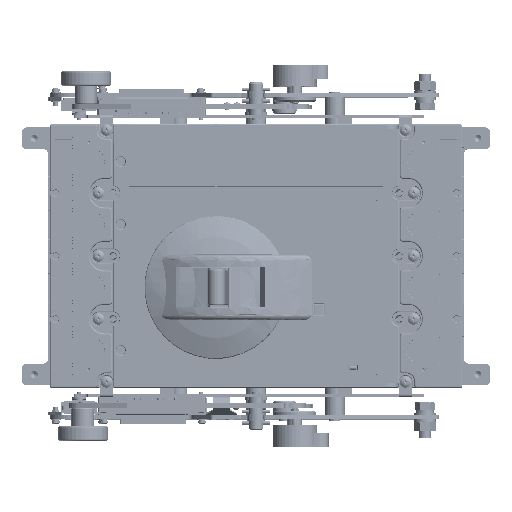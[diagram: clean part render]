
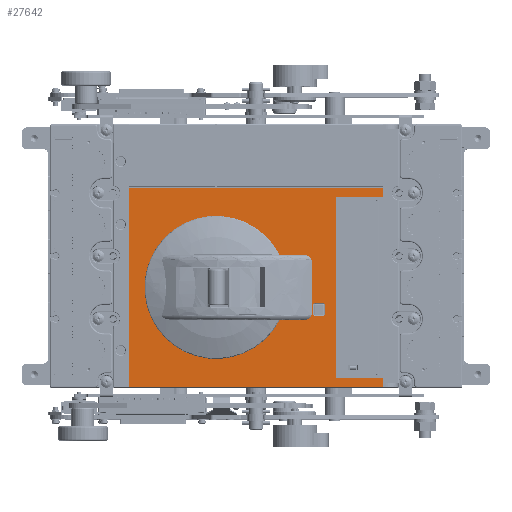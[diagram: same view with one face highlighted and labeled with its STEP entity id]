
A CAD part, top view. The second image highlights one B-rep face of the part: STEP entity #27642.
In plain terms, the highlighted planar face has unit normal (0, 0, 1).
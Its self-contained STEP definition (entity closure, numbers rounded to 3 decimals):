
#27642=ADVANCED_FACE('',(#66277,#66278,#66279),#44047,.T.);
#44047=PLANE('',#334692);
#55210=CIRCLE('',#333734,50.);
#55211=CIRCLE('',#333736,1.);
#55212=CIRCLE('',#333741,1.);
#55602=CIRCLE('',#334688,1.);
#55603=CIRCLE('',#334689,1.);
#55604=CIRCLE('',#334690,1.);
#55605=CIRCLE('',#334691,1.);
#66277=FACE_BOUND('',#75790,.T.);
#66278=FACE_BOUND('',#75791,.T.);
#66279=FACE_BOUND('',#75792,.T.);
#75790=EDGE_LOOP('',(#177936,#177937,#177938,#177939,#177940,#177941,#177942,
#177943));
#75791=EDGE_LOOP('',(#177944,#177945,#177946,#177947,#177948,#177949,#177950,
#177951,#177952,#177953));
#75792=EDGE_LOOP('',(#177954,#177955,#177956,#177957,#177958,#177959));
#100231=LINE('',#481903,#131868);
#100233=LINE('',#481927,#131870);
#100237=LINE('',#481946,#131874);
#100241=LINE('',#481961,#131878);
#100244=LINE('',#481965,#131881);
#100271=LINE('',#482181,#131908);
#100281=LINE('',#482202,#131918);
#100299=LINE('',#482238,#131936);
#100304=LINE('',#482246,#131941);
#100681=LINE('',#483541,#132322);
#101015=LINE('',#484601,#132656);
#101310=LINE('',#485643,#132951);
#101311=LINE('',#485648,#132952);
#101312=LINE('',#485652,#132953);
#101313=LINE('',#485656,#132954);
#131868=VECTOR('',#377889,1.);
#131870=VECTOR('',#377897,1.);
#131874=VECTOR('',#377913,1.);
#131878=VECTOR('',#377927,1.);
#131881=VECTOR('',#377932,1.);
#131908=VECTOR('',#378067,1.);
#131918=VECTOR('',#378083,1.);
#131936=VECTOR('',#378119,1.);
#131941=VECTOR('',#378126,1.);
#132322=VECTOR('',#379195,1.);
#132656=VECTOR('',#380123,1.);
#132951=VECTOR('',#380888,1.);
#132952=VECTOR('',#380891,1.);
#132953=VECTOR('',#380894,1.);
#132954=VECTOR('',#380897,1.);
#177936=ORIENTED_EDGE('',*,*,#291562,.T.);
#177937=ORIENTED_EDGE('',*,*,#291563,.T.);
#177938=ORIENTED_EDGE('',*,*,#291564,.T.);
#177939=ORIENTED_EDGE('',*,*,#291565,.T.);
#177940=ORIENTED_EDGE('',*,*,#291566,.T.);
#177941=ORIENTED_EDGE('',*,*,#291567,.T.);
#177942=ORIENTED_EDGE('',*,*,#291568,.T.);
#177943=ORIENTED_EDGE('',*,*,#291569,.T.);
#177944=ORIENTED_EDGE('',*,*,#290036,.T.);
#177945=ORIENTED_EDGE('',*,*,#290033,.T.);
#177946=ORIENTED_EDGE('',*,*,#291142,.T.);
#177947=ORIENTED_EDGE('',*,*,#290099,.T.);
#177948=ORIENTED_EDGE('',*,*,#290109,.T.);
#177949=ORIENTED_EDGE('',*,*,#290030,.T.);
#177950=ORIENTED_EDGE('',*,*,#290026,.T.);
#177951=ORIENTED_EDGE('',*,*,#290022,.T.);
#177952=ORIENTED_EDGE('',*,*,#290129,.T.);
#177953=ORIENTED_EDGE('',*,*,#290134,.T.);
#177954=ORIENTED_EDGE('',*,*,#290021,.T.);
#177955=ORIENTED_EDGE('',*,*,#290018,.F.);
#177956=ORIENTED_EDGE('',*,*,#290574,.T.);
#177957=ORIENTED_EDGE('',*,*,#290651,.T.);
#177958=ORIENTED_EDGE('',*,*,#290566,.T.);
#177959=ORIENTED_EDGE('',*,*,#290011,.T.);
#255971=VERTEX_POINT('',#479981);
#255995=VERTEX_POINT('',#480124);
#256378=VERTEX_POINT('',#481904);
#256379=VERTEX_POINT('',#481905);
#256382=VERTEX_POINT('',#481926);
#256383=VERTEX_POINT('',#481928);
#256384=VERTEX_POINT('',#481938);
#256385=VERTEX_POINT('',#481939);
#256388=VERTEX_POINT('',#481947);
#256391=VERTEX_POINT('',#481955);
#256393=VERTEX_POINT('',#481960);
#256431=VERTEX_POINT('',#482173);
#256433=VERTEX_POINT('',#482179);
#256451=VERTEX_POINT('',#482237);
#256701=VERTEX_POINT('',#483205);
#256705=VERTEX_POINT('',#483264);
#257327=VERTEX_POINT('',#485644);
#257328=VERTEX_POINT('',#485645);
#257329=VERTEX_POINT('',#485647);
#257330=VERTEX_POINT('',#485649);
#257331=VERTEX_POINT('',#485651);
#257332=VERTEX_POINT('',#485653);
#257333=VERTEX_POINT('',#485655);
#257334=VERTEX_POINT('',#485657);
#290011=EDGE_CURVE('',#256378,#256379,#100231,.T.);
#290018=EDGE_CURVE('',#256382,#256383,#100233,.T.);
#290021=EDGE_CURVE('',#256379,#256383,#55210,.T.);
#290022=EDGE_CURVE('',#256384,#256385,#55211,.T.);
#290026=EDGE_CURVE('',#256388,#256384,#100237,.T.);
#290030=EDGE_CURVE('',#256391,#256388,#55212,.T.);
#290033=EDGE_CURVE('',#255971,#256393,#100241,.T.);
#290036=EDGE_CURVE('',#255995,#255971,#100244,.T.);
#290099=EDGE_CURVE('',#256431,#256433,#100271,.T.);
#290109=EDGE_CURVE('',#256433,#256391,#100281,.T.);
#290129=EDGE_CURVE('',#256385,#256451,#100299,.T.);
#290134=EDGE_CURVE('',#256451,#255995,#100304,.T.);
#290566=EDGE_CURVE('',#256701,#256378,#326592,.T.);
#290574=EDGE_CURVE('',#256382,#256705,#326597,.T.);
#290651=EDGE_CURVE('',#256705,#256701,#100681,.T.);
#291142=EDGE_CURVE('',#256393,#256431,#101015,.T.);
#291562=EDGE_CURVE('',#257327,#257328,#101310,.T.);
#291563=EDGE_CURVE('',#257328,#257329,#55602,.T.);
#291564=EDGE_CURVE('',#257329,#257330,#101311,.T.);
#291565=EDGE_CURVE('',#257330,#257331,#55603,.T.);
#291566=EDGE_CURVE('',#257331,#257332,#101312,.T.);
#291567=EDGE_CURVE('',#257332,#257333,#55604,.T.);
#291568=EDGE_CURVE('',#257333,#257334,#101313,.T.);
#291569=EDGE_CURVE('',#257334,#257327,#55605,.T.);
#326592=B_SPLINE_CURVE_WITH_KNOTS('',3,(#483197,#483198,#483199,#483200,
#483201,#483202,#483203,#483204),.UNSPECIFIED.,.F.,.F.,(4,2,2,4),(0.,0.25,
0.5,1.),.UNSPECIFIED.);
#326597=B_SPLINE_CURVE_WITH_KNOTS('',3,(#483265,#483266,#483267,#483268,
#483269,#483270,#483271,#483272),.UNSPECIFIED.,.F.,.F.,(4,2,2,4),(0.,0.5,
0.75,1.),.UNSPECIFIED.);
#333734=AXIS2_PLACEMENT_3D('',#481935,#377901,#377902);
#333736=AXIS2_PLACEMENT_3D('',#481937,#377905,#377906);
#333741=AXIS2_PLACEMENT_3D('',#481954,#377920,#377921);
#334688=AXIS2_PLACEMENT_3D('',#485646,#380889,#380890);
#334689=AXIS2_PLACEMENT_3D('',#485650,#380892,#380893);
#334690=AXIS2_PLACEMENT_3D('',#485654,#380895,#380896);
#334691=AXIS2_PLACEMENT_3D('',#485658,#380898,#380899);
#334692=AXIS2_PLACEMENT_3D('',#485659,#380900,#380901);
#377889=DIRECTION('',(-1.,0.,0.));
#377897=DIRECTION('',(-1.,0.,0.));
#377901=DIRECTION('',(0.,0.,-1.));
#377902=DIRECTION('',(-1.,0.,0.));
#377905=DIRECTION('',(0.,0.,-1.));
#377906=DIRECTION('',(1.,0.,0.));
#377913=DIRECTION('',(0.,1.,0.));
#377920=DIRECTION('',(0.,0.,-1.));
#377921=DIRECTION('',(1.,0.,0.));
#377927=DIRECTION('',(0.,-1.,0.));
#377932=DIRECTION('',(-1.,0.,0.));
#378067=DIRECTION('',(0.,1.,0.));
#378083=DIRECTION('',(-1.,0.,0.));
#378119=DIRECTION('',(1.,0.,0.));
#378126=DIRECTION('',(0.,1.,0.));
#379195=DIRECTION('',(0.,-1.,0.));
#380123=DIRECTION('',(1.,0.,0.));
#380888=DIRECTION('',(1.,0.,0.));
#380889=DIRECTION('',(0.,0.,-1.));
#380890=DIRECTION('',(1.,0.,0.));
#380891=DIRECTION('',(0.,-1.,0.));
#380892=DIRECTION('',(0.,0.,-1.));
#380893=DIRECTION('',(1.,0.,0.));
#380894=DIRECTION('',(-1.,0.,0.));
#380895=DIRECTION('',(0.,0.,-1.));
#380896=DIRECTION('',(1.,0.,0.));
#380897=DIRECTION('',(0.,1.,0.));
#380898=DIRECTION('',(0.,0.,-1.));
#380899=DIRECTION('',(1.,0.,0.));
#380900=DIRECTION('',(0.,0.,1.));
#380901=DIRECTION('',(-1.,0.,0.));
#479981=CARTESIAN_POINT('',(57.012,93.2,210.698));
#480124=CARTESIAN_POINT('',(234.012,93.2,210.698));
#481903=CARTESIAN_POINT('',(184.284,1.,210.698));
#481904=CARTESIAN_POINT('',(177.844,1.,210.698));
#481905=CARTESIAN_POINT('',(161.908,1.,210.698));
#481926=CARTESIAN_POINT('',(177.844,47.,210.698));
#481927=CARTESIAN_POINT('',(184.284,47.,210.698));
#481928=CARTESIAN_POINT('',(161.908,47.,210.698));
#481935=CARTESIAN_POINT('',(117.512,24.,210.698));
#481937=CARTESIAN_POINT('',(202.112,86.2,210.698));
#481938=CARTESIAN_POINT('',(201.112,86.2,210.698));
#481939=CARTESIAN_POINT('',(202.112,87.2,210.698));
#481946=CARTESIAN_POINT('',(201.112,-39.2,210.698));
#481947=CARTESIAN_POINT('',(201.112,-38.2,210.698));
#481954=CARTESIAN_POINT('',(202.112,-38.2,210.698));
#481955=CARTESIAN_POINT('',(202.112,-39.2,210.698));
#481960=CARTESIAN_POINT('',(57.012,-45.5,210.698));
#481961=CARTESIAN_POINT('',(57.012,-45.5,210.698));
#481965=CARTESIAN_POINT('',(59.512,93.2,210.698));
#482173=CARTESIAN_POINT('',(234.012,-45.5,210.698));
#482179=CARTESIAN_POINT('',(234.012,-39.2,210.698));
#482181=CARTESIAN_POINT('',(234.012,-39.2,210.698));
#482202=CARTESIAN_POINT('',(231.512,-39.2,210.698));
#482237=CARTESIAN_POINT('',(234.012,87.2,210.698));
#482238=CARTESIAN_POINT('',(201.112,87.2,210.698));
#482246=CARTESIAN_POINT('',(234.012,93.2,210.698));
#483197=CARTESIAN_POINT('',(184.284,5.,210.698));
#483198=CARTESIAN_POINT('',(184.284,4.295,210.698));
#483199=CARTESIAN_POINT('',(183.985,3.63,210.698));
#483200=CARTESIAN_POINT('',(183.08,2.561,210.698));
#483201=CARTESIAN_POINT('',(182.497,2.158,210.698));
#483202=CARTESIAN_POINT('',(180.636,1.242,210.698));
#483203=CARTESIAN_POINT('',(179.237,1.,210.698));
#483204=CARTESIAN_POINT('',(177.844,1.,210.698));
#483205=CARTESIAN_POINT('',(184.284,5.,210.698));
#483264=CARTESIAN_POINT('',(184.284,43.,210.698));
#483265=CARTESIAN_POINT('',(177.844,47.,210.698));
#483266=CARTESIAN_POINT('',(179.238,47.,210.698));
#483267=CARTESIAN_POINT('',(180.62,46.764,210.698));
#483268=CARTESIAN_POINT('',(182.492,45.846,210.698));
#483269=CARTESIAN_POINT('',(183.077,45.44,210.698));
#483270=CARTESIAN_POINT('',(183.979,44.38,210.698));
#483271=CARTESIAN_POINT('',(184.284,43.706,210.698));
#483272=CARTESIAN_POINT('',(184.284,43.,210.698));
#483541=CARTESIAN_POINT('',(184.284,47.,210.698));
#484601=CARTESIAN_POINT('',(145.512,-45.5,210.698));
#485643=CARTESIAN_POINT('',(192.512,13.,210.698));
#485644=CARTESIAN_POINT('',(186.512,13.,210.698));
#485645=CARTESIAN_POINT('',(192.512,13.,210.698));
#485646=CARTESIAN_POINT('',(192.512,12.,210.698));
#485647=CARTESIAN_POINT('',(193.512,12.,210.698));
#485648=CARTESIAN_POINT('',(193.512,5.,210.698));
#485649=CARTESIAN_POINT('',(193.512,5.,210.698));
#485650=CARTESIAN_POINT('',(192.512,5.,210.698));
#485651=CARTESIAN_POINT('',(192.512,4.,210.698));
#485652=CARTESIAN_POINT('',(186.512,4.,210.698));
#485653=CARTESIAN_POINT('',(186.512,4.,210.698));
#485654=CARTESIAN_POINT('',(186.512,5.,210.698));
#485655=CARTESIAN_POINT('',(185.512,5.,210.698));
#485656=CARTESIAN_POINT('',(185.512,12.,210.698));
#485657=CARTESIAN_POINT('',(185.512,12.,210.698));
#485658=CARTESIAN_POINT('',(186.512,12.,210.698));
#485659=CARTESIAN_POINT('',(145.512,46.,210.698));
